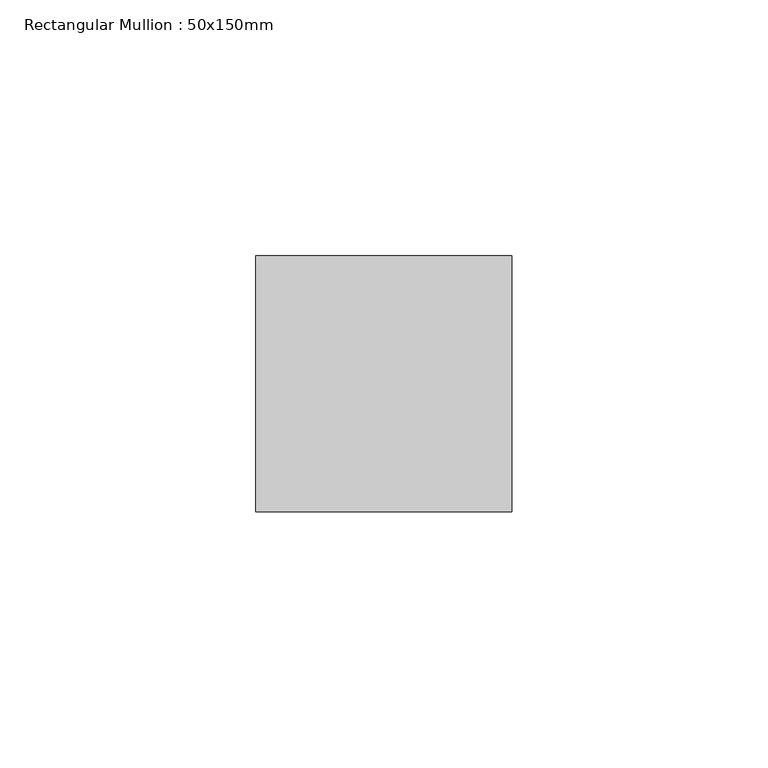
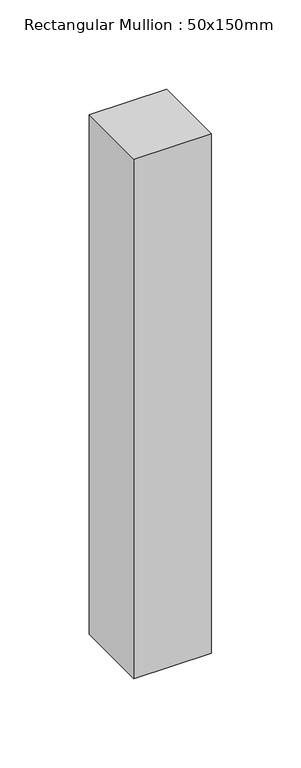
"""IFC4 building model written with IfcOpenShell, lengths in millimetres: member geometry, Rectangular Mullion : 50x150mm."""

from ifc_helpers import new_model, si_unit, frame, origin, place, context, project, spatial, polyline, outline, extrude, source, transform, mapped, element, save


def rectangular_mullion_50x150mm_42300aa9(model_context):
    return source(origin(), model_context, "Body", "SweptSolid", [
        extrude(outline(polyline([(25.0, 25.0), (25.0, -25.0), (-25.0, -25.0), (-25.0, 25.0), (25.0, 25.0)])), frame((0.0, 0.0, -355.0), z_axis=(0.0, 0.0, 1.0), x_axis=(1.0, 0.0, 0.0)), (0.0, 0.0, 1.0), 355.0),
    ])


if __name__ == "__main__":
    model = new_model("IFC4")
    model_context = context("Model", 3, world=origin())
    ifc_project = project(units=[si_unit("LENGTHUNIT", "METRE", prefix="MILLI")], contexts=[model_context])
    site = spatial("IfcSite", under=ifc_project)
    building = spatial("IfcBuilding", under=site)
    placement = place(None, origin())
    rectangular_mullion_50x150mm_shape = rectangular_mullion_50x150mm_42300aa9(model_context)
    element("IfcMember", 1, ObjectType="Rectangular Mullion : 50x150mm", at=placement, inside=building, context=model_context, shape_type="MappedRepresentation", body=[
        mapped(rectangular_mullion_50x150mm_shape, transform((0.0, 0.0, 0.0), x_axis=(1.0, 0.0, 0.0), y_axis=(0.0, 1.0, 0.0), z_axis=(0.0, 0.0, 1.0))),
    ])
    save(model, "model.ifc")
